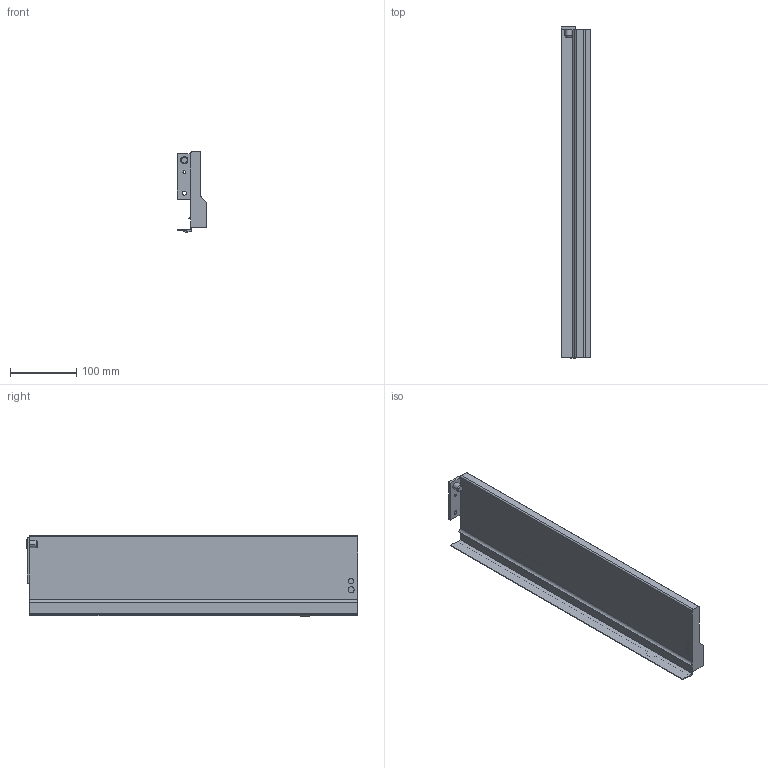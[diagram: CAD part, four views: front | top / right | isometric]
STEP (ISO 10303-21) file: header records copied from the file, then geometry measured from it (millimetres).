
FILE_DESCRIPTION (( 'STEP AP214' ), '1' );
FILE_NAME ('_IMOS_NOVA-Pro_Dekor-H122_CL_NL500_RE.step', '2010-07-06T09:35:57', ( 'grass' ), ( '' ), 'SwSTEP 2.0', 'SolidWorks 2009', '' );
FILE_SCHEMA (( 'AUTOMOTIVE_DESIGN' ));
Length unit declared in the file: millimetre
Products named in the file (1): _IMOS_NOVA-Pro_Dekor-H122_CL_NL500_RE
Bounding box: 44.3 x 502.7 x 122.49 mm (x, y, z)
Volume: 681956.8 mm3; surface area: 206200.5 mm2
Topology: 1 solids, 1 shells, 73 faces, 194 edges, 128 vertices
Faces by surface type: plane 42, cylinder 26, cone 4, bspline 1
Entity records: 2325 total; most frequent: CARTESIAN_POINT 417, DIRECTION 394, ORIENTED_EDGE 388, EDGE_CURVE 194, LINE 136, VECTOR 136, AXIS2_PLACEMENT_3D 129, VERTEX_POINT 128
